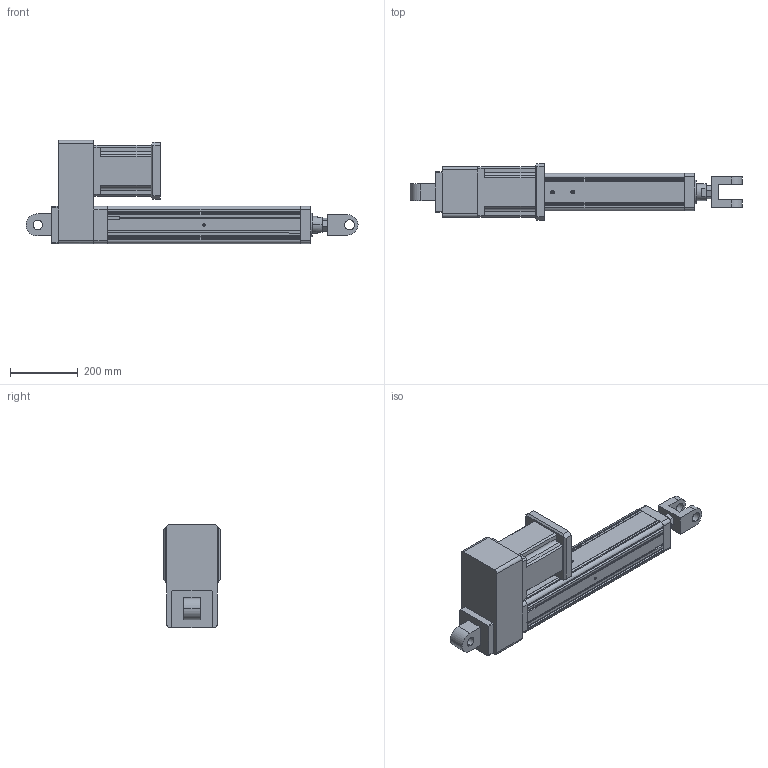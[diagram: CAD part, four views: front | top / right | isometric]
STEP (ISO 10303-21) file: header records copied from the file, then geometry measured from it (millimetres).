
FILE_DESCRIPTION (( 'STEP AP203' ), '1' );
FILE_NAME ('YRJ110-L400-H6K4.STEP', '2020-01-04T06:55:22', ( 'User' ), ( 'China' ), 'SwSTEP 2.0', 'SolidWorks 2016', '' );
FILE_SCHEMA (( 'CONFIG_CONTROL_DESIGN' ));
Length unit declared in the file: millimetre
Products named in the file (8): YRJ110-L400-H6K4; 095-100俴最倰第; 萇儂碟-110; 142熬厒儂; K4-110; H5-110-1; H6-110; H3-110-2
Assembly tree (7 placements, depth 2):
  YRJ110-L400-H6K4
    095-100俴最倰第
    萇儂碟-110
    142熬厒儂
    K4-110
    H5-110-1
    H6-110
    H3-110-2
Bounding box: 981 x 168 x 305.5 mm (x, y, z)
Volume: 12836098.1 mm3; surface area: 1067444 mm2
Topology: 7 solids, 7 shells, 336 faces, 919 edges, 595 vertices
Faces by surface type: plane 191, cylinder 118, cone 27
Entity records: 11712 total; most frequent: CARTESIAN_POINT 2184, DIRECTION 1824, ORIENTED_EDGE 1806, EDGE_CURVE 903, VECTOR 630, LINE 630, AXIS2_PLACEMENT_3D 597, VERTEX_POINT 595
